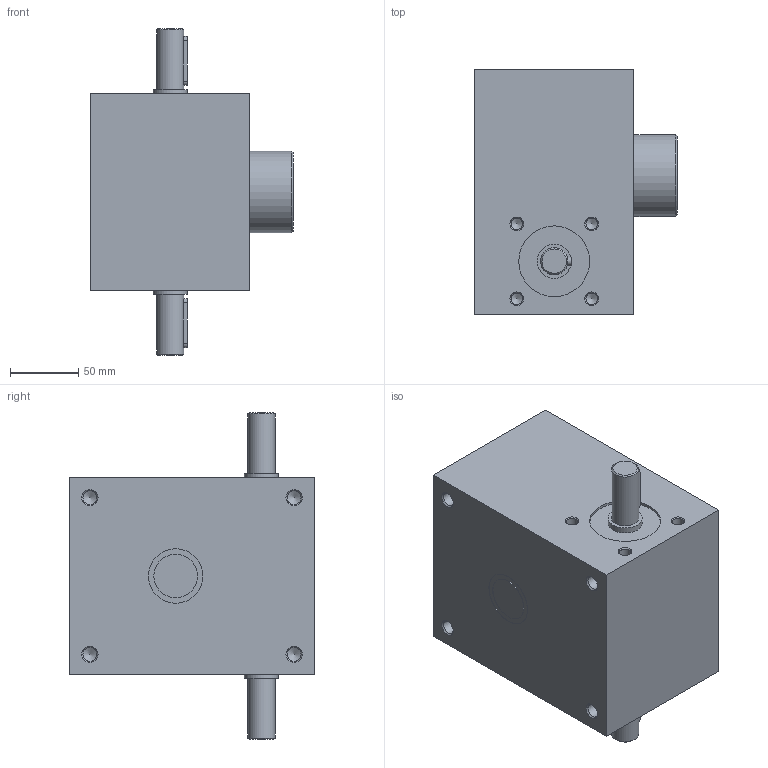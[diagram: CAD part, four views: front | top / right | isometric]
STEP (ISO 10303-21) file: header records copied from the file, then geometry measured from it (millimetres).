
FILE_DESCRIPTION(/* description */ (''),/* implementation_level */ '2;1');
FILE_NAME(/* name */ 'D:\FOLDER Tomasz Michałek\pliki z pulpitu\Katalogi przekładni\Podnośniki śrubowe\Pivexin Technology\Podnosniki - potrzebne\Modele podnosnikow\R\SG50\M4-R-71\SG50-R-H.stp',/* time_stamp */ '2015-06-17T08:00:21+02:00',/* author */ ('Tomasz'),/* organization */ (''),/* preprocessor_version */ 'ST-DEVELOPER v16.1',/* originating_system */ 'Autodesk Inventor 2016',/* authorisation */ '');
FILE_SCHEMA (('AUTOMOTIVE_DESIGN { 1 0 10303 214 3 1 1 }'));
Length unit declared in the file: millimetre
Products named in the file (3): HI_NEFF M4-7_1-R-Tr40x7-1; HI_NEFF M4-R-Tr40x7-4; SG50-R-H
Assembly tree (2 placements, depth 2):
  SG50-R-H
    HI_NEFF M4-7_1-R-Tr40x7-1
    HI_NEFF M4-R-Tr40x7-4
Bounding box: 149 x 180 x 240 mm (x, y, z)
Volume: 2964565.5 mm3; surface area: 190245.4 mm2
Topology: 2 solids, 2 shells, 87 faces, 187 edges, 114 vertices
Faces by surface type: cone 35, cylinder 30, plane 22
Full cylindrical faces by diameter (mm): 8.376 x8, 10.106 x8, 20 x2, 25 x2, 32 x1, 40 x2, 52 x2, 60 x1
Entity records: 1993 total; most frequent: DIRECTION 362, CARTESIAN_POINT 362, ORIENTED_EDGE 214, AXIS2_PLACEMENT_3D 167, EDGE_LOOP 160, EDGE_CURVE 107, VERTEX_POINT 95, FACE_OUTER_BOUND 87
